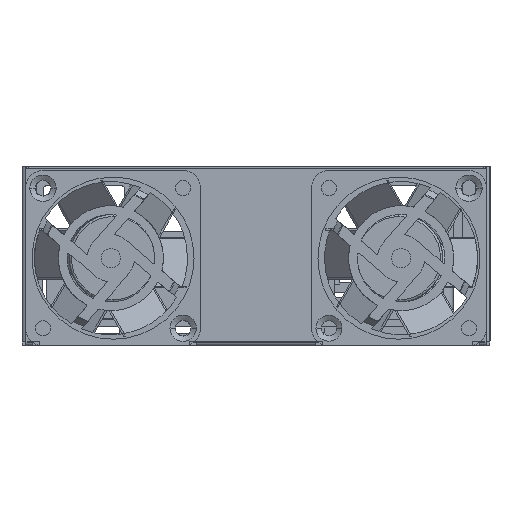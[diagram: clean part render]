
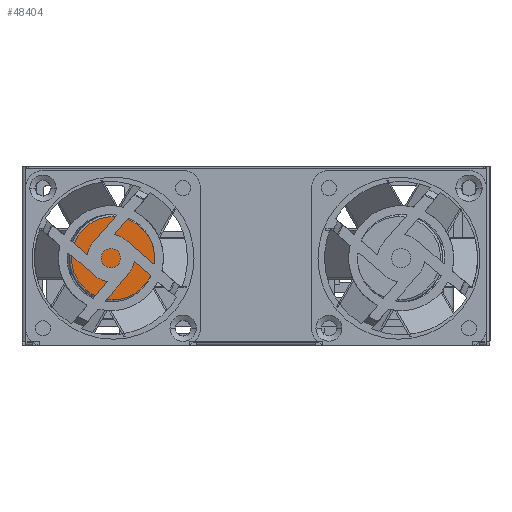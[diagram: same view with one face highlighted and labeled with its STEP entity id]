
A CAD part, front view. The second image highlights one B-rep face of the part: STEP entity #48404.
In plain terms, the highlighted planar face has unit normal (0, -1, 0) as drawn and (0, 0, 1) by its records, which use the part's own axes.
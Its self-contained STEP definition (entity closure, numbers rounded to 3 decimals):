
#46048=CARTESIAN_POINT('',(0.,0.,15.));
#46049=DIRECTION('',(0.,0.,1.));
#46050=DIRECTION('',(-1.,0.,0.));
#46051=AXIS2_PLACEMENT_3D('',#46048,#46049,#46050);
#46056=CARTESIAN_POINT('',(0.,0.,15.));
#46057=DIRECTION('',(0.,0.,1.));
#46058=DIRECTION('',(1.,0.,0.));
#46059=AXIS2_PLACEMENT_3D('',#46056,#46057,#46058);
#46794=CARTESIAN_POINT('',(9.5,0.,15.));
#46795=VERTEX_POINT('',#46794);
#46796=CARTESIAN_POINT('',(-9.5,0.,15.));
#46797=VERTEX_POINT('',#46796);
#48394=CARTESIAN_POINT('',(16.,-16.,15.));
#48395=DIRECTION('',(0.,0.,1.));
#48396=DIRECTION('',(1.,0.,0.));
#48397=AXIS2_PLACEMENT_3D('',#48394,#48395,#48396);
#48398=PLANE('',#48397);
#48399=ORIENTED_EDGE('',*,*,#48375,.F.);
#48401=ORIENTED_EDGE('',*,*,#48400,.F.);
#48402=EDGE_LOOP('',(#48399,#48401));
#48403=FACE_OUTER_BOUND('',#48402,.F.);
#46052=CIRCLE('',#46051,9.5);
#46060=CIRCLE('',#46059,9.5);
#48375=EDGE_CURVE('',#46797,#46795,#46052,.T.);
#48400=EDGE_CURVE('',#46795,#46797,#46060,.T.);
#48404=ADVANCED_FACE('',(#48403),#48398,.T.);
